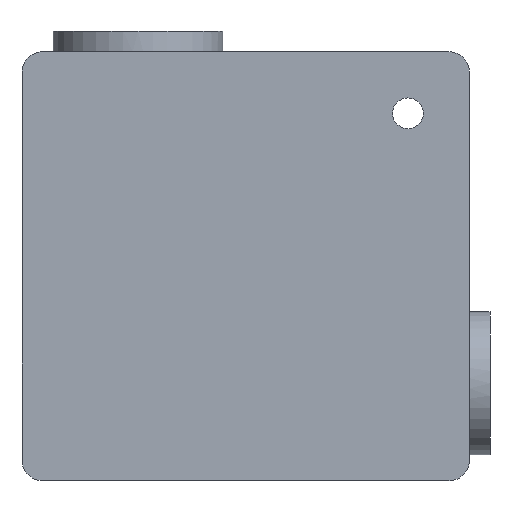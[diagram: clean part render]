
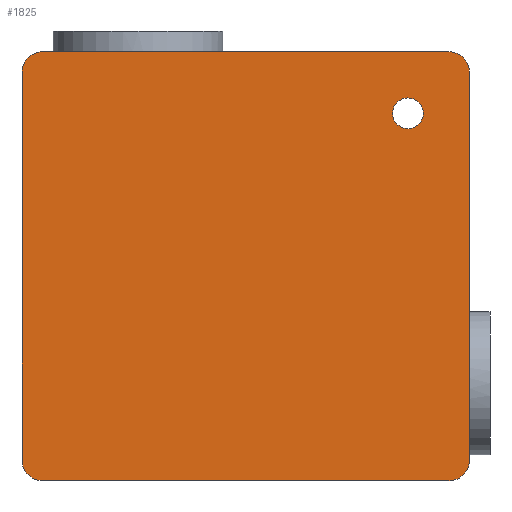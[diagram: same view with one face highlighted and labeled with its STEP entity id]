
A CAD part, front view. The second image highlights one B-rep face of the part: STEP entity #1825.
In plain terms, the highlighted planar face has unit normal (0, -1, 0).
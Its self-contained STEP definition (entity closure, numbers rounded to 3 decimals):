
#6 = LINE ( 'NONE', #322, #1039 ) ;
#39 = CARTESIAN_POINT ( 'NONE',  ( -109., 0., 104.5 ) ) ;
#88 = EDGE_CURVE ( 'NONE', #1634, #823, #89, .T. ) ;
#89 = CIRCLE ( 'NONE', #1456, 10. ) ;
#104 = VERTEX_POINT ( 'NONE', #1539 ) ;
#116 = CARTESIAN_POINT ( 'NONE',  ( 79., 0., 67. ) ) ;
#137 = DIRECTION ( 'NONE',  ( 0., 0., 1. ) ) ;
#196 = CIRCLE ( 'NONE', #665, 10. ) ;
#204 = LINE ( 'NONE', #39, #703 ) ;
#228 = VERTEX_POINT ( 'NONE', #116 ) ;
#250 = ORIENTED_EDGE ( 'NONE', *, *, #281, .T. ) ;
#281 = EDGE_CURVE ( 'NONE', #445, #228, #1801, .T. ) ;
#290 = CARTESIAN_POINT ( 'NONE',  ( -99., 0., 94.5 ) ) ;
#296 = DIRECTION ( 'NONE',  ( 0., -1., 0. ) ) ;
#322 = CARTESIAN_POINT ( 'NONE',  ( 109., 0., 104.5 ) ) ;
#374 = EDGE_CURVE ( 'NONE', #1275, #1059, #196, .T. ) ;
#395 = FACE_BOUND ( 'NONE', #1372, .T. ) ;
#418 = CARTESIAN_POINT ( 'NONE',  ( -99., 0., -104.5 ) ) ;
#445 = VERTEX_POINT ( 'NONE', #1462 ) ;
#475 = CARTESIAN_POINT ( 'NONE',  ( 109., 0., 94.5 ) ) ;
#490 = VECTOR ( 'NONE', #902, 1000. ) ;
#568 = CARTESIAN_POINT ( 'NONE',  ( 79., 0., 74.5 ) ) ;
#599 = CARTESIAN_POINT ( 'NONE',  ( 0., 0., 0. ) ) ;
#616 = ORIENTED_EDGE ( 'NONE', *, *, #88, .T. ) ;
#628 = CARTESIAN_POINT ( 'NONE',  ( -109., 0., -94.5 ) ) ;
#665 = AXIS2_PLACEMENT_3D ( 'NONE', #1439, #296, #137 ) ;
#697 = ORIENTED_EDGE ( 'NONE', *, *, #374, .T. ) ;
#703 = VECTOR ( 'NONE', #1349, 1000. ) ;
#711 = ORIENTED_EDGE ( 'NONE', *, *, #2119, .T. ) ;
#722 = CARTESIAN_POINT ( 'NONE',  ( 109., 0., -104.5 ) ) ;
#746 = DIRECTION ( 'NONE',  ( 0., 1., 0. ) ) ;
#765 = AXIS2_PLACEMENT_3D ( 'NONE', #599, #746, #1713 ) ;
#778 = DIRECTION ( 'NONE',  ( 0., 1., 0. ) ) ;
#815 = EDGE_LOOP ( 'NONE', ( #1661, #1278, #1284, #616, #1481, #697, #1418, #711 ) ) ;
#823 = VERTEX_POINT ( 'NONE', #1007 ) ;
#849 = EDGE_CURVE ( 'NONE', #1491, #104, #204, .T. ) ;
#902 = DIRECTION ( 'NONE',  ( 0., 0., -1. ) ) ;
#927 = DIRECTION ( 'NONE',  ( 0., -1., 0. ) ) ;
#935 = DIRECTION ( 'NONE',  ( -1., 0., 0. ) ) ;
#949 = DIRECTION ( 'NONE',  ( 0., 0., 1. ) ) ;
#959 = AXIS2_PLACEMENT_3D ( 'NONE', #1237, #927, #1573 ) ;
#1007 = CARTESIAN_POINT ( 'NONE',  ( 109., 0., -94.5 ) ) ;
#1039 = VECTOR ( 'NONE', #1445, 1000. ) ;
#1053 = DIRECTION ( 'NONE',  ( 0., 0., 1. ) ) ;
#1059 = VERTEX_POINT ( 'NONE', #1437 ) ;
#1085 = LINE ( 'NONE', #1733, #490 ) ;
#1096 = PLANE ( 'NONE',  #765 ) ;
#1125 = VERTEX_POINT ( 'NONE', #418 ) ;
#1160 = AXIS2_PLACEMENT_3D ( 'NONE', #1883, #778, #1419 ) ;
#1166 = CIRCLE ( 'NONE', #1431, 7.5 ) ;
#1179 = CIRCLE ( 'NONE', #1962, 10. ) ;
#1236 = LINE ( 'NONE', #722, #1930 ) ;
#1237 = CARTESIAN_POINT ( 'NONE',  ( -99., 0., -94.5 ) ) ;
#1275 = VERTEX_POINT ( 'NONE', #475 ) ;
#1278 = ORIENTED_EDGE ( 'NONE', *, *, #1422, .T. ) ;
#1284 = ORIENTED_EDGE ( 'NONE', *, *, #1827, .F. ) ;
#1298 = ORIENTED_EDGE ( 'NONE', *, *, #1797, .T. ) ;
#1349 = DIRECTION ( 'NONE',  ( 0., 0., 1. ) ) ;
#1372 = EDGE_LOOP ( 'NONE', ( #250, #1298 ) ) ;
#1418 = ORIENTED_EDGE ( 'NONE', *, *, #2038, .F. ) ;
#1419 = DIRECTION ( 'NONE',  ( 0., 0., 1. ) ) ;
#1422 = EDGE_CURVE ( 'NONE', #1491, #1125, #2051, .T. ) ;
#1431 = AXIS2_PLACEMENT_3D ( 'NONE', #568, #1907, #1053 ) ;
#1436 = DIRECTION ( 'NONE',  ( 0., -1., 0. ) ) ;
#1437 = CARTESIAN_POINT ( 'NONE',  ( 99., 0., 104.5 ) ) ;
#1439 = CARTESIAN_POINT ( 'NONE',  ( 99., 0., 94.5 ) ) ;
#1445 = DIRECTION ( 'NONE',  ( 1., 0., 0. ) ) ;
#1456 = AXIS2_PLACEMENT_3D ( 'NONE', #1520, #1680, #1667 ) ;
#1462 = CARTESIAN_POINT ( 'NONE',  ( 79., 0., 82. ) ) ;
#1481 = ORIENTED_EDGE ( 'NONE', *, *, #1849, .F. ) ;
#1491 = VERTEX_POINT ( 'NONE', #628 ) ;
#1520 = CARTESIAN_POINT ( 'NONE',  ( 99., 0., -94.5 ) ) ;
#1539 = CARTESIAN_POINT ( 'NONE',  ( -109., 0., 94.5 ) ) ;
#1573 = DIRECTION ( 'NONE',  ( 0., 0., 1. ) ) ;
#1634 = VERTEX_POINT ( 'NONE', #1826 ) ;
#1661 = ORIENTED_EDGE ( 'NONE', *, *, #849, .F. ) ;
#1667 = DIRECTION ( 'NONE',  ( 0., 0., 1. ) ) ;
#1680 = DIRECTION ( 'NONE',  ( 0., -1., 0. ) ) ;
#1713 = DIRECTION ( 'NONE',  ( 0., 0., 1. ) ) ;
#1733 = CARTESIAN_POINT ( 'NONE',  ( 109., 0., 104.5 ) ) ;
#1769 = CARTESIAN_POINT ( 'NONE',  ( -99., 0., 104.5 ) ) ;
#1797 = EDGE_CURVE ( 'NONE', #228, #445, #1166, .T. ) ;
#1801 = CIRCLE ( 'NONE', #1160, 7.5 ) ;
#1825 = ADVANCED_FACE ( 'NONE', ( #395, #2060 ), #1096, .F. ) ;
#1826 = CARTESIAN_POINT ( 'NONE',  ( 99., 0., -104.5 ) ) ;
#1827 = EDGE_CURVE ( 'NONE', #1634, #1125, #1236, .T. ) ;
#1849 = EDGE_CURVE ( 'NONE', #1275, #823, #1085, .T. ) ;
#1883 = CARTESIAN_POINT ( 'NONE',  ( 79., 0., 74.5 ) ) ;
#1907 = DIRECTION ( 'NONE',  ( 0., 1., 0. ) ) ;
#1930 = VECTOR ( 'NONE', #935, 1000. ) ;
#1962 = AXIS2_PLACEMENT_3D ( 'NONE', #290, #1436, #949 ) ;
#2029 = VERTEX_POINT ( 'NONE', #1769 ) ;
#2038 = EDGE_CURVE ( 'NONE', #2029, #1059, #6, .T. ) ;
#2051 = CIRCLE ( 'NONE', #959, 10. ) ;
#2060 = FACE_OUTER_BOUND ( 'NONE', #815, .T. ) ;
#2119 = EDGE_CURVE ( 'NONE', #2029, #104, #1179, .T. ) ;
